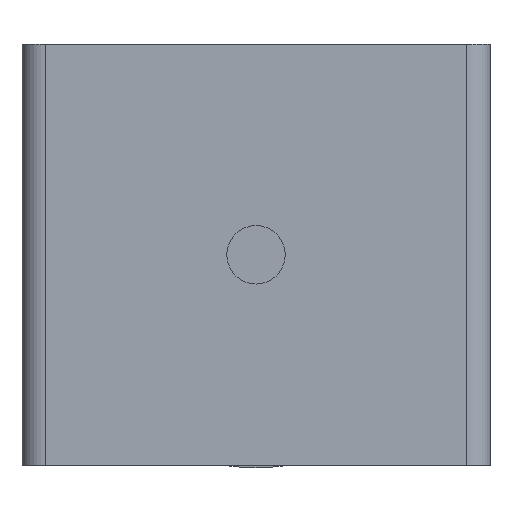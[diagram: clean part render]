
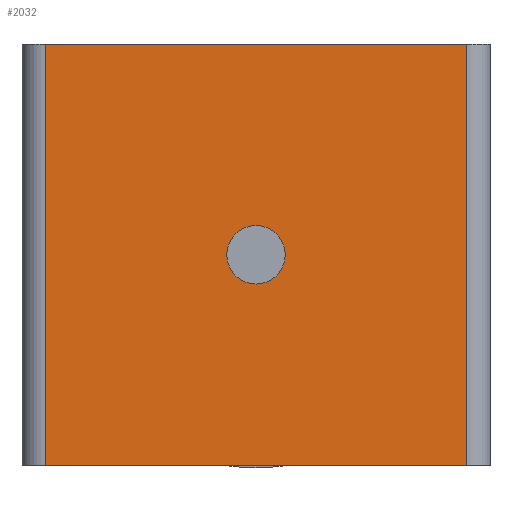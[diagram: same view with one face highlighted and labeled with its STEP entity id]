
A CAD part, front view. The second image highlights one B-rep face of the part: STEP entity #2032.
In plain terms, the highlighted planar face has unit normal (0, -1, 0).
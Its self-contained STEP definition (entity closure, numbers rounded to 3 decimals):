
#10 = DIRECTION ( 'NONE',  ( 0., -1., 0. ) ) ;
#20 = EDGE_CURVE ( 'NONE', #931, #1869, #3341, .T. ) ;
#40 = VECTOR ( 'NONE', #702, 1000. ) ;
#64 = CARTESIAN_POINT ( 'NONE',  ( 0., -46., 0. ) ) ;
#128 = CARTESIAN_POINT ( 'NONE',  ( 0., -46., -36. ) ) ;
#339 = EDGE_CURVE ( 'NONE', #825, #931, #1409, .T. ) ;
#341 = DIRECTION ( 'NONE',  ( 0., 0., 1. ) ) ;
#566 = ORIENTED_EDGE ( 'NONE', *, *, #3703, .T. ) ;
#632 = VECTOR ( 'NONE', #2600, 1000. ) ;
#702 = DIRECTION ( 'NONE',  ( 0., 0., 1. ) ) ;
#804 = CARTESIAN_POINT ( 'NONE',  ( -18., -46., -36. ) ) ;
#825 = VERTEX_POINT ( 'NONE', #4211 ) ;
#841 = CARTESIAN_POINT ( 'NONE',  ( -18., -46., -36. ) ) ;
#931 = VERTEX_POINT ( 'NONE', #841 ) ;
#971 = VECTOR ( 'NONE', #1828, 1000. ) ;
#1027 = ORIENTED_EDGE ( 'NONE', *, *, #3071, .F. ) ;
#1129 = FACE_BOUND ( 'NONE', #3269, .T. ) ;
#1163 = DIRECTION ( 'NONE',  ( 0., 1., 0. ) ) ;
#1409 = LINE ( 'NONE', #4156, #2238 ) ;
#1583 = ORIENTED_EDGE ( 'NONE', *, *, #4123, .F. ) ;
#1589 = ORIENTED_EDGE ( 'NONE', *, *, #4267, .T. ) ;
#1611 = VERTEX_POINT ( 'NONE', #4416 ) ;
#1731 = VERTEX_POINT ( 'NONE', #2361 ) ;
#1738 = CIRCLE ( 'NONE', #3989, 2.5 ) ;
#1792 = CARTESIAN_POINT ( 'NONE',  ( 18., -46., -36. ) ) ;
#1828 = DIRECTION ( 'NONE',  ( -1., 0., 0. ) ) ;
#1869 = VERTEX_POINT ( 'NONE', #1792 ) ;
#1873 = PLANE ( 'NONE',  #2946 ) ;
#1921 = LINE ( 'NONE', #64, #971 ) ;
#1979 = ORIENTED_EDGE ( 'NONE', *, *, #20, .T. ) ;
#2032 = ADVANCED_FACE ( 'NONE', ( #1129, #3825 ), #1873, .F. ) ;
#2121 = CARTESIAN_POINT ( 'NONE',  ( 0., -46., -18. ) ) ;
#2238 = VECTOR ( 'NONE', #3788, 1000. ) ;
#2361 = CARTESIAN_POINT ( 'NONE',  ( 0., -46., -15.5 ) ) ;
#2463 = DIRECTION ( 'NONE',  ( 0., -1., 0. ) ) ;
#2485 = DIRECTION ( 'NONE',  ( 0., 0., 1. ) ) ;
#2600 = DIRECTION ( 'NONE',  ( 1., 0., 0. ) ) ;
#2742 = LINE ( 'NONE', #2822, #40 ) ;
#2822 = CARTESIAN_POINT ( 'NONE',  ( 18., -46., -18. ) ) ;
#2946 = AXIS2_PLACEMENT_3D ( 'NONE', #804, #1163, #3637 ) ;
#3071 = EDGE_CURVE ( 'NONE', #1731, #4286, #1738, .T. ) ;
#3072 = EDGE_LOOP ( 'NONE', ( #3803, #1979, #1589, #566 ) ) ;
#3269 = EDGE_LOOP ( 'NONE', ( #1027, #1583 ) ) ;
#3341 = LINE ( 'NONE', #128, #632 ) ;
#3637 = DIRECTION ( 'NONE',  ( 0., 0., 1. ) ) ;
#3703 = EDGE_CURVE ( 'NONE', #1611, #825, #1921, .T. ) ;
#3732 = AXIS2_PLACEMENT_3D ( 'NONE', #2121, #10, #2485 ) ;
#3788 = DIRECTION ( 'NONE',  ( 0., 0., -1. ) ) ;
#3803 = ORIENTED_EDGE ( 'NONE', *, *, #339, .T. ) ;
#3825 = FACE_OUTER_BOUND ( 'NONE', #3072, .T. ) ;
#3989 = AXIS2_PLACEMENT_3D ( 'NONE', #4573, #2463, #341 ) ;
#4123 = EDGE_CURVE ( 'NONE', #4286, #1731, #4230, .T. ) ;
#4156 = CARTESIAN_POINT ( 'NONE',  ( -18., -46., -18. ) ) ;
#4211 = CARTESIAN_POINT ( 'NONE',  ( -18., -46., 0. ) ) ;
#4230 = CIRCLE ( 'NONE', #3732, 2.5 ) ;
#4231 = CARTESIAN_POINT ( 'NONE',  ( 0., -46., -20.5 ) ) ;
#4267 = EDGE_CURVE ( 'NONE', #1869, #1611, #2742, .T. ) ;
#4286 = VERTEX_POINT ( 'NONE', #4231 ) ;
#4416 = CARTESIAN_POINT ( 'NONE',  ( 18., -46., 0. ) ) ;
#4573 = CARTESIAN_POINT ( 'NONE',  ( 0., -46., -18. ) ) ;
